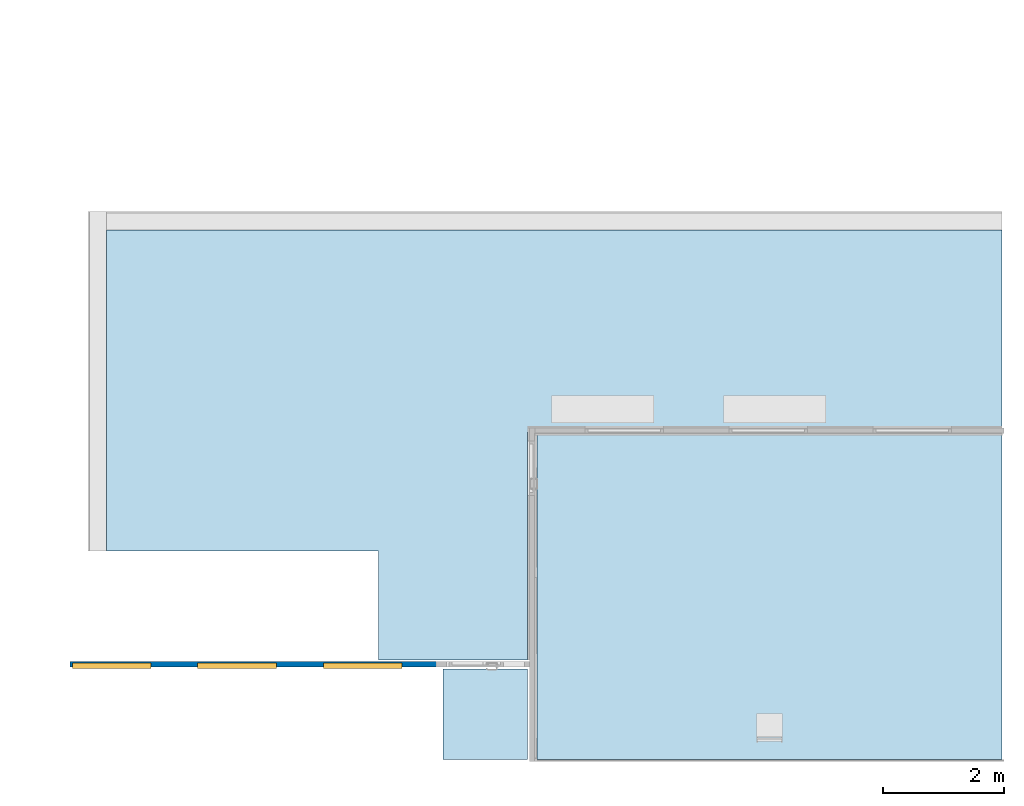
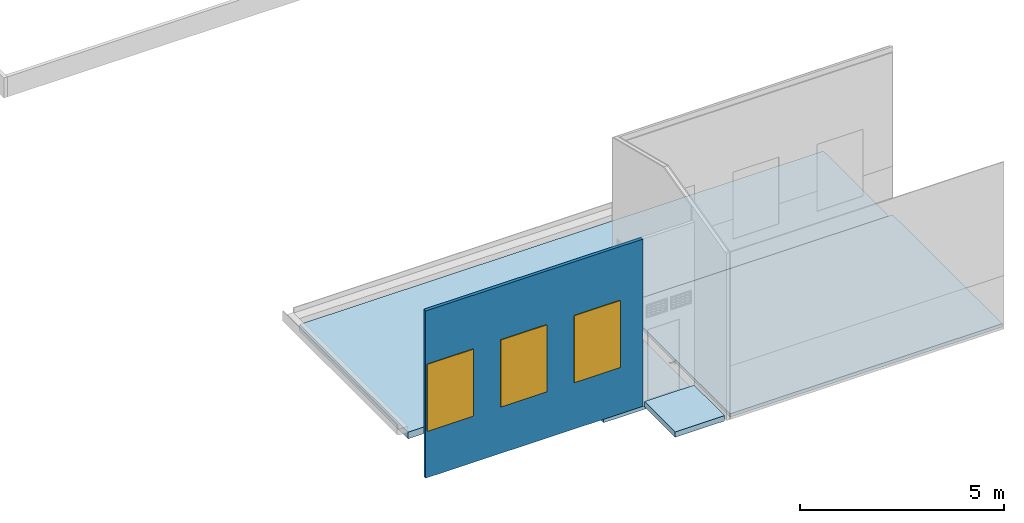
"""IFC2X3 building model written with IfcOpenShell, lengths in metres."""

from ifc_helpers import new_model, entity, si_unit, converted_unit, derived_unit, direction, frame, frame_2d, origin, origin_2d_with_axis, place, context, subcontext, project, spatial, polyline, rectangle, outline, extrude, source, transform, mapped, material, layer, layer_set, layer_usage, type_object, type_shapes, element, fill, save


model = new_model("IFC2X3")

# Units and contexts
model_context = context("Model", 3, precision=1e-05, world=origin(), true_north=direction((6.12303176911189e-17, 1.0)))
body_context = subcontext(model_context, "Body", "Model", "MODEL_VIEW")
ifc_project = project(units=[si_unit("LENGTHUNIT", "METRE"), si_unit("AREAUNIT", "SQUARE_METRE"), si_unit("VOLUMEUNIT", "CUBIC_METRE"), converted_unit("PLANEANGLEUNIT", "DEGREE", entity("IfcRatioMeasure", 0.0174532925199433), si_unit("PLANEANGLEUNIT", "RADIAN"), dimensions=[0, 0, 0, 0, 0, 0, 0]), si_unit("MASSUNIT", "GRAM", prefix="KILO"), derived_unit("MASSDENSITYUNIT", [(si_unit("MASSUNIT", "GRAM", prefix="KILO"), 1), (si_unit("LENGTHUNIT", "METRE"), -3)]), si_unit("TIMEUNIT", "SECOND"), si_unit("FREQUENCYUNIT", "HERTZ"), si_unit("THERMODYNAMICTEMPERATUREUNIT", "DEGREE_CELSIUS"), derived_unit("THERMALTRANSMITTANCEUNIT", [(si_unit("MASSUNIT", "GRAM", prefix="KILO"), 1), (si_unit("THERMODYNAMICTEMPERATUREUNIT", "KELVIN"), -1), (si_unit("TIMEUNIT", "SECOND"), -3)]), derived_unit("VOLUMETRICFLOWRATEUNIT", [(si_unit("LENGTHUNIT", "METRE"), 3), (si_unit("TIMEUNIT", "SECOND"), -1)]), si_unit("ELECTRICCURRENTUNIT", "AMPERE"), si_unit("ELECTRICVOLTAGEUNIT", "VOLT"), si_unit("POWERUNIT", "WATT"), si_unit("FORCEUNIT", "NEWTON", prefix="KILO"), si_unit("ILLUMINANCEUNIT", "LUX"), si_unit("LUMINOUSFLUXUNIT", "LUMEN"), si_unit("LUMINOUSINTENSITYUNIT", "CANDELA"), derived_unit("USERDEFINED", [(si_unit("MASSUNIT", "GRAM", prefix="KILO"), -1), (si_unit("LENGTHUNIT", "METRE"), -2), (si_unit("TIMEUNIT", "SECOND"), 3), (si_unit("LUMINOUSFLUXUNIT", "LUMEN"), 1)]), derived_unit("LINEARVELOCITYUNIT", [(si_unit("LENGTHUNIT", "METRE"), 1), (si_unit("TIMEUNIT", "SECOND"), -1)]), si_unit("PRESSUREUNIT", "PASCAL"), derived_unit("USERDEFINED", [(si_unit("LENGTHUNIT", "METRE"), -2), (si_unit("MASSUNIT", "GRAM", prefix="KILO"), 1), (si_unit("TIMEUNIT", "SECOND"), -2)])], contexts=[model_context])

# Site, building, storey
site_placement = place(None, frame((26.9889013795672, -17.5624287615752, 0.0)))
site = spatial("IfcSite", under=ifc_project, at=site_placement, Name="Default", CompositionType="ELEMENT")
building_placement = place(site_placement, origin())
building = spatial("IfcBuilding", under=site, at=building_placement, Name="C. C. L. Monsenhor Antônio Sampaio", CompositionType="ELEMENT")
storey_1_placement = place(building_placement, frame((0.0, 0.0, 0.799999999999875)))
storey_1 = spatial("IfcBuildingStorey", under=building, at=storey_1_placement, Name="Nível 0.8", CompositionType="ELEMENT", Elevation=0.799999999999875)

# Slabs
ifc_material_1 = material(Name=".Piso intertravado")
ifc_layer_1 = layer(ifc_material_1, 0.01)
ifc_material_2 = material(Name=".Cimentado")
ifc_layer_2 = layer(ifc_material_2, 0.03)
ifc_material_3 = material(Name=".Lastro de Concreto")
ifc_layer_3 = layer(ifc_material_3, 0.05)
ifc_material_4 = material(Name=".Aterro Compactado")
ifc_layer_4 = layer(ifc_material_4, 0.11)
ifc_layer_set_1 = layer_set([ifc_layer_1, ifc_layer_2, ifc_layer_3, ifc_layer_4], Name="Piso:.Piso Externo-Bloco Intertravado")
ifc_layer_usage_1 = layer_usage(ifc_layer_set_1, "AXIS3", "POSITIVE", 0.0)
slab_1_placement = place(storey_1_placement, origin())
element("IfcSlab", 1, at=slab_1_placement, inside=storey_1, material=ifc_layer_usage_1, Name="Piso:.Piso Externo-Bloco Intertravado", ObjectType="Piso:.Piso Externo-Bloco Intertravado", PredefinedType="FLOOR", context=body_context, shape_type="SweptSolid", body=[
    extrude(outline(polyline([(-1.37060718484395, -6.56956650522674), (3.94182155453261, -6.56956650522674), (3.94182155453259, 8.24649178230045), (0.599392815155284, 8.24649178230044), (0.599392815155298, 0.396421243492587), (-3.17060718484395, 0.396421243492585), (-3.17060718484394, -2.0733465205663), (-1.37060718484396, -2.0733465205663), (-1.37060718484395, -6.56956650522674)])), frame((3.3329559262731, -23.4824591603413, 0.0), z_axis=(0.0, 0.0, -1.0), x_axis=(0.0, 1.0, 0.0)), (0.0, 0.0, 1.0), 0.2),
])
ifc_material_5 = material(Name=".Granilite areia com junta de dilatação 1x1m")
ifc_layer_5 = layer(ifc_material_5, 0.1)
ifc_layer_set_2 = layer_set([ifc_layer_5], Name="Piso:Granilite")
ifc_layer_usage_2 = layer_usage(ifc_layer_set_2, "AXIS3", "POSITIVE", 0.0)
slab_2_placement = place(storey_1_placement, origin())
element("IfcSlab", 2, at=slab_2_placement, inside=storey_1, material=ifc_layer_usage_2, Name="Piso:Granilite", ObjectType="Piso:Granilite", PredefinedType="FLOOR", context=body_context, shape_type="SweptSolid", body=[
    extrude(rectangle(XDim=5.37000000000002, YDim=7.70007053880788, at=frame_2d((4.44089209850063e-15, 4.21884749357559e-15), x_axis=(1.0, 0.0))), frame((7.72941243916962, -25.618066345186, 0.15), z_axis=(0.0, 0.0, -1.0), x_axis=(0.0, 1.0, 0.0)), (0.0, 0.0, 1.0), 0.1),
])
ifc_material_6 = material(Name=".CERÂMICA 40x40 BRANCA")
ifc_layer_6 = layer(ifc_material_6, 0.01)
ifc_layer_7 = layer(ifc_material_2, 0.03)
ifc_layer_8 = layer(ifc_material_3, 0.12)
ifc_layer_set_3 = layer_set([ifc_layer_6, ifc_layer_7, ifc_layer_8], Name="Piso:.Piso_Área Molhada_40x40")
ifc_layer_usage_3 = layer_usage(ifc_layer_set_3, "AXIS3", "POSITIVE", 0.0)
slab_3_placement = place(storey_1_placement, origin())
element("IfcSlab", 3, at=slab_3_placement, inside=storey_1, material=ifc_layer_usage_3, Name="Piso:.Piso_Área Molhada_40x40", ObjectType="Piso:.Piso_Área Molhada_40x40", PredefinedType="FLOOR", context=body_context, shape_type="SweptSolid", body=[
    extrude(rectangle(XDim=1.50000000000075, YDim=1.39992946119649, at=frame_2d((0.0, -1.11022302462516e-16), x_axis=(1.0, 0.0))), frame((3.02941243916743, -27.5530663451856, 0.15), z_axis=(0.0, 0.0, -1.0), x_axis=(0.0, 1.0, 0.0)), (0.0, 0.0, 1.0), 0.16),
])

# Wall, openings
ifc_material_7 = material(Name="ALVENARIA")
ifc_layer_9 = layer(ifc_material_7, 0.09)
ifc_layer_set_4 = layer_set([ifc_layer_9], Name="Parede básica:ENucleo parede 15cm")
ifc_layer_usage_4 = layer_usage(ifc_layer_set_4, "AXIS2", "POSITIVE", -0.045)
wall_type = type_object("IfcWallType", Name="Parede básica:ENucleo parede 15cm", PredefinedType="STANDARD", material=ifc_layer_set_4)
wall_placement = place(storey_1_placement, frame((-3.84555229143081, -26.7280663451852, 0.0)))
wall = element("IfcWallStandardCase", 4, at=wall_placement, inside=storey_1, type_object=wall_type, material=ifc_layer_usage_4, Name="Parede básica:ENucleo parede 15cm", ObjectType="Parede básica:ENucleo parede 15cm", context=body_context, shape_type="SweptSolid", body=[
    extrude(rectangle(XDim=6.145, YDim=0.0899999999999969, at=frame_2d((3.0725, -6.83481049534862e-16), x_axis=(-1.0, 0.0))), origin(), (0.0, 0.0, 1.0), 5.00000000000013),
])
opening_1_placement = place(wall_placement, frame((5.495, 0.0449999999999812, 1.40000000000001)))
opening_1 = element("IfcOpeningElement", 5, at=opening_1_placement, cuts=wall, Name="Janela levantamento:130 x 200cm 2:1", ObjectType="Opening", context=body_context, shape_type="SweptSolid", body=[
    extrude(rectangle(XDim=2.0, YDim=1.30000000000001, at=frame_2d((1.0, 0.650000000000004), x_axis=(1.0, 0.0))), frame((0.0, 0.0, 0.0), z_axis=(0.0, -1.0, 0.0), x_axis=(0.0, 0.0, 1.0)), (0.0, 0.0, 1.0), 0.09),
])
opening_2_placement = place(wall_placement, frame((3.41500000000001, 0.0449999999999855, 1.40000000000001)))
opening_2 = element("IfcOpeningElement", 6, at=opening_2_placement, cuts=wall, Name="Janela levantamento:130 x 200cm 2:1", ObjectType="Opening", context=body_context, shape_type="SweptSolid", body=[
    extrude(rectangle(XDim=2.0, YDim=1.30000000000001, at=frame_2d((1.0, 0.650000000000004), x_axis=(1.0, 0.0))), frame((0.0, 0.0, 0.0), z_axis=(0.0, -1.0, 0.0), x_axis=(0.0, 0.0, 1.0)), (0.0, 0.0, 1.0), 0.09),
])
opening_3_placement = place(wall_placement, frame((1.34000000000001, 0.0449999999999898, 1.4)))
opening_3 = element("IfcOpeningElement", 7, at=opening_3_placement, cuts=wall, Name="Janela levantamento:130 x 200cm 2:1", ObjectType="Opening", context=body_context, shape_type="SweptSolid", body=[
    extrude(rectangle(XDim=2.0, YDim=1.30000000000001, at=frame_2d((1.0, 0.650000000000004), x_axis=(1.0, 0.0))), frame((0.0, 0.0, 0.0), z_axis=(0.0, -1.0, 0.0), x_axis=(0.0, 0.0, 1.0)), (0.0, 0.0, 1.0), 0.09),
])

# Storey
storey_2_placement = place(building_placement, frame((0.0, 0.0, 1.19999999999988)))
storey_2 = spatial("IfcBuildingStorey", under=building, at=storey_2_placement, Name="Nível 1.2", CompositionType="ELEMENT", Elevation=1.19999999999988)

# Window
ifc_material_8 = material(Name="Pintura Azul")
window_style_1 = type_object("IfcWindowStyle", Name="130 x 200cm 2", ConstructionType="NOTDEFINED", OperationType="NOTDEFINED", ParameterTakesPrecedence=False, Sizeable=False, material=ifc_material_8)
shared_shape_1 = source(origin(), body_context, "Body", "SweptSolid", [
    extrude(rectangle(XDim=1.3, YDim=0.0209999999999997, at=frame_2d((0.0, 4.33680868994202e-18), x_axis=(1.0, 0.0))), frame((0.650000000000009, 0.0795000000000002, 0.0)), (0.0, 0.0, 1.0), 0.0299999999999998),
    extrude(outline(polyline([(-0.325000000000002, -1.0), (0.325000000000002, -1.0), (0.325000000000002, 1.0), (-0.325000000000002, 1.0), (-0.325000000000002, -1.0)]), holes=[polyline([(0.225000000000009, -0.899999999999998), (-0.225000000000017, -0.899999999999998), (-0.225000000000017, 0.900000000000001), (0.225000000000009, 0.900000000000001), (0.225000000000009, -0.899999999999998)])]), frame((0.325000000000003, 0.0690000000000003, 1.0), z_axis=(0.0, 1.0, 0.0), x_axis=(1.0, 0.0, 0.0)), (0.0, 0.0, 1.0), 0.04),
    extrude(outline(polyline([(-0.650000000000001, -1.0), (0.650000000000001, -1.0), (0.650000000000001, 1.0), (-0.650000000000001, 1.0), (-0.650000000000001, -1.0)]), holes=[polyline([(-0.599999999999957, -0.949999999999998), (-0.599999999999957, 0.94), (0.600000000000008, 0.94), (0.600000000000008, -0.949999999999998), (-0.599999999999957, -0.949999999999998)])]), frame((0.650000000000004, 0.019, 1.0), z_axis=(0.0, 1.0, 0.0), x_axis=(1.0, 0.0, 0.0)), (0.0, 0.0, 1.0), 0.05),
    extrude(rectangle(XDim=0.0205880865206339, YDim=0.450000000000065, at=origin_2d_with_axis()), frame((0.324999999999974, 0.0987059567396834, 0.0999999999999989), z_axis=(0.0, 0.0, 1.0), x_axis=(0.0, 1.0, 0.0)), (0.0, 0.0, 1.0), 1.8),
    extrude(rectangle(XDim=0.0205880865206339, YDim=0.449999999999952, at=frame_2d((0.0, 4.16333634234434e-17), x_axis=(1.0, 0.0))), frame((0.977826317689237, 0.0987059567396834, 0.100000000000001), z_axis=(0.0, 0.0, 1.0), x_axis=(0.0, 1.0, 0.0)), (0.0, 0.0, 1.0), 1.8),
    extrude(outline(polyline([(-1.0, -0.325000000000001), (1.0, -0.325000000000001), (1.0, 0.325000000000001), (-1.0, 0.325000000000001), (-1.0, -0.325000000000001)]), holes=[polyline([(-0.899999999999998, 0.224999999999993), (0.900000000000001, 0.224999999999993), (0.900000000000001, -0.225000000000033), (-0.899999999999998, -0.225000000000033), (-0.899999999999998, 0.224999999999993)])]), frame((0.975000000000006, 0.0690000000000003, 1.0), z_axis=(0.0, 1.0, 0.0), x_axis=(0.0, 0.0, -1.0)), (0.0, 0.0, 1.0), 0.04),
])
type_shapes(window_style_1, [shared_shape_1])
window_1_placement = place(opening_2_placement, frame((0.0, 0.0, 0.0), z_axis=(0.0, 0.0, 1.0), x_axis=(-1.0, 0.0, 0.0)))
window_1 = element("IfcWindow", 8, at=window_1_placement, inside=storey_2, type_object=window_style_1, material=ifc_material_8, Name="Janela levantamento:130 x 200cm 2", ObjectType="130 x 200cm 2", OverallHeight=2.0, OverallWidth=1.30000000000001, context=body_context, shape_type="MappedRepresentation", body=[
    mapped(shared_shape_1, transform((0.0, 0.0, 0.0), scale=1.0)),
])

fill(opening_2, window_1)

window_2_placement = place(opening_3_placement, frame((0.0, 0.0, 0.0), z_axis=(0.0, 0.0, 1.0), x_axis=(-1.0, 0.0, 0.0)))
window_2 = element("IfcWindow", 9, at=window_2_placement, inside=storey_2, type_object=window_style_1, material=ifc_material_8, Name="Janela levantamento:130 x 200cm 2", ObjectType="130 x 200cm 2", OverallHeight=2.0, OverallWidth=1.30000000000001, context=body_context, shape_type="MappedRepresentation", body=[
    mapped(shared_shape_1, transform((0.0, 0.0, 0.0), scale=1.0)),
])

fill(opening_3, window_2)

window_style_2 = type_object("IfcWindowStyle", Name="130 x 200cm 2", ConstructionType="NOTDEFINED", OperationType="NOTDEFINED", ParameterTakesPrecedence=False, Sizeable=False, material=ifc_material_8)
shared_shape_2 = source(origin(), body_context, "Body", "SweptSolid", [
    extrude(rectangle(XDim=0.0209999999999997, YDim=1.3, at=origin_2d_with_axis()), frame((0.732281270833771, 0.0795000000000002, 0.0), z_axis=(0.0, 0.0, 1.0), x_axis=(0.0, 1.0, 0.0)), (0.0, 0.0, 1.0), 0.0299999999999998),
    extrude(outline(polyline([(-0.325000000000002, -1.0), (0.325000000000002, -1.0), (0.325000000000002, 1.0), (-0.325000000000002, 1.0), (-0.325000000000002, -1.0)]), holes=[polyline([(0.225000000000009, -0.899999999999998), (-0.225000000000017, -0.899999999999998), (-0.225000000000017, 0.900000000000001), (0.225000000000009, 0.900000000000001), (0.225000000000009, -0.899999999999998)])]), frame((1.05728127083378, 0.109, 1.0), z_axis=(0.0, -1.0, 0.0), x_axis=(-1.0, 0.0, 0.0)), (0.0, 0.0, 1.0), 0.04),
    extrude(outline(polyline([(-0.650000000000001, -1.0), (0.650000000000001, -1.0), (0.650000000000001, 1.0), (-0.650000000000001, 1.0), (-0.650000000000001, -1.0)]), holes=[polyline([(-0.599999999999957, -0.949999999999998), (-0.599999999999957, 0.94), (0.600000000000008, 0.94), (0.600000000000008, -0.949999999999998), (-0.599999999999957, -0.949999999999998)])]), frame((0.732281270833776, 0.069, 1.0), z_axis=(0.0, -1.0, 0.0), x_axis=(-1.0, 0.0, 0.0)), (0.0, 0.0, 1.0), 0.05),
    extrude(rectangle(XDim=0.450000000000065, YDim=0.0205880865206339, at=origin_2d_with_axis()), frame((1.05728127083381, 0.0987059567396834, 0.0999999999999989)), (0.0, 0.0, 1.0), 1.8),
    extrude(rectangle(XDim=0.449999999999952, YDim=0.0205880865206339, at=origin_2d_with_axis()), frame((0.404454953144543, 0.0987059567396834, 0.100000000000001)), (0.0, 0.0, 1.0), 1.8),
    extrude(outline(polyline([(-1.0, -0.325000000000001), (1.0, -0.325000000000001), (1.0, 0.325000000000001), (-1.0, 0.325000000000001), (-1.0, -0.325000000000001)]), holes=[polyline([(-0.899999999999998, 0.224999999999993), (0.900000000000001, 0.224999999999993), (0.900000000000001, -0.225000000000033), (-0.899999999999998, -0.225000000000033), (-0.899999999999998, 0.224999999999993)])]), frame((0.407281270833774, 0.109, 1.0), z_axis=(0.0, -1.0, 0.0), x_axis=(0.0, 0.0, -1.0)), (0.0, 0.0, 1.0), 0.04),
])
type_shapes(window_style_2, [shared_shape_2])
window_3_placement = place(opening_1_placement, frame((0.082281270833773, 0.0, 0.0), z_axis=(0.0, 0.0, 1.0), x_axis=(-1.0, 0.0, 0.0)))
window_3 = element("IfcWindow", 10, at=window_3_placement, inside=storey_2, type_object=window_style_2, material=ifc_material_8, Name="Janela levantamento:130 x 200cm 2", ObjectType="130 x 200cm 2", OverallHeight=2.0, OverallWidth=1.30000000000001, context=body_context, shape_type="MappedRepresentation", body=[
    mapped(shared_shape_2, transform((0.0, 0.0, 0.0), scale=1.0)),
])

fill(opening_1, window_3)

save(model, "model.ifc")
